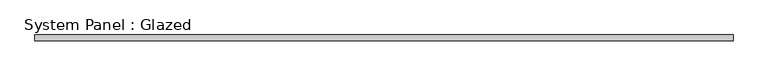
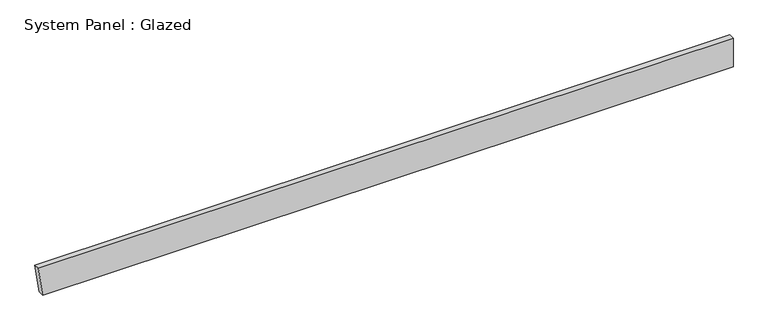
"""IFC4 building model written with IfcOpenShell, lengths in millimetres: plate geometry, System Panel : Glazed."""

from ifc_helpers import new_model, si_unit, frame, origin, place, context, project, spatial, polyline, outline, extrude, source, transform, mapped, element, save


def system_panel_glazed_9a39e563(model_context):
    return source(origin(), model_context, "Body", "SweptSolid", [
        extrude(outline(polyline([(0.0, -1505.2699431), (0.0, 1524.0000002), (131.51448, 1524.0000002), (131.51448, -1524.0000002), (0.0, -1505.2699431)])), frame((0.0, 19.05, 0.0), z_axis=(0.0, 1.0, 0.0), x_axis=(0.0, 0.0, 1.0)), (0.0, 0.0, 1.0), 25.4),
    ])


if __name__ == "__main__":
    model = new_model("IFC4")
    model_context = context("Model", 3, world=origin())
    ifc_project = project(units=[si_unit("LENGTHUNIT", "METRE", prefix="MILLI")], contexts=[model_context])
    site = spatial("IfcSite", under=ifc_project)
    building = spatial("IfcBuilding", under=site)
    placement = place(None, origin())
    system_panel_glazed_shape = system_panel_glazed_9a39e563(model_context)
    element("IfcPlate", 1, ObjectType="System Panel : Glazed", at=placement, inside=building, context=model_context, shape_type="MappedRepresentation", body=[
        mapped(system_panel_glazed_shape, transform((0.0, 0.0, 0.0), x_axis=(1.0, 0.0, 0.0), y_axis=(0.0, 1.0, 0.0), z_axis=(0.0, 0.0, 1.0))),
    ])
    save(model, "model.ifc")
